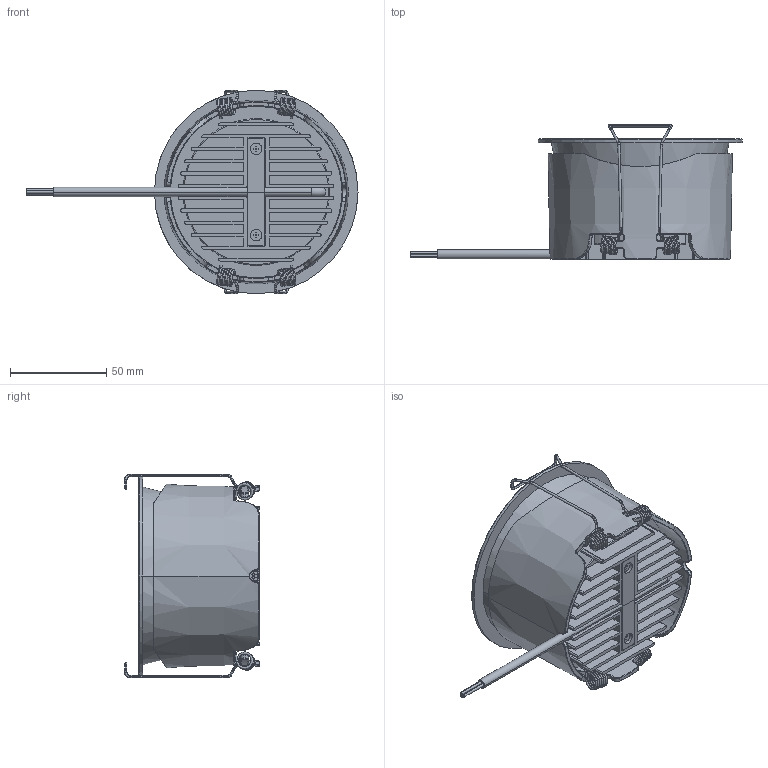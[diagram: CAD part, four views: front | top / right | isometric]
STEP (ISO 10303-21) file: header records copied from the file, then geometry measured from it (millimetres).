
FILE_DESCRIPTION((''),'2;1');
FILE_NAME('KL-D106-15W_ASM','2025-11-19T16:27:05',('Administrator'),(''),'CREO PARAMETRIC BY PTC INC, 2021404','CREO PARAMETRIC BY PTC INC, 2021404','');
FILE_SCHEMA(('CONFIG_CONTROL_DESIGN','SHAPE_APPEARANCE_LAYERS_GROUPS'));
Length unit declared in the file: millimetre
Products named in the file (6): PRT0001_2; PRT0002_1; PRT0003_1; PRT0004_5; ASM0001_ASM_13_ASM; KL-D106-15W_ASM
Assembly tree (6 placements, depth 3):
  KL-D106-15W_ASM
    ASM0001_ASM_13_ASM
      PRT0001_2
      PRT0002_1
      PRT0003_1
      PRT0004_5  x2
Bounding box: 172.04 x 69.77 x 105.5 mm (x, y, z)
Volume: 140480.3 mm3; surface area: 94468.7 mm2
Topology: 5 solids, 5 shells, 683 faces, 1815 edges, 1148 vertices
Faces by surface type: cylinder 276, plane 182, torus 123, bspline 94, cone 8
Entity records: 35418 total; most frequent: CARTESIAN_POINT 11814, ORIENTED_EDGE 3250, DIRECTION 3062, PRESENTATION_STYLE_ASSIGNMENT 2154, STYLED_ITEM 2142, CURVE_STYLE 1625, EDGE_CURVE 1625, AXIS2_PLACEMENT_3D 1194
